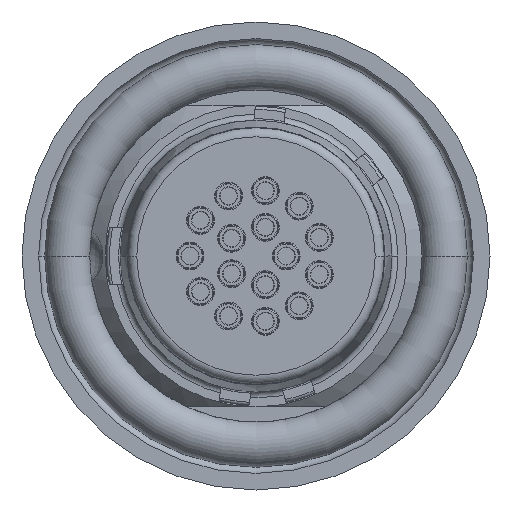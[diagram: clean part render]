
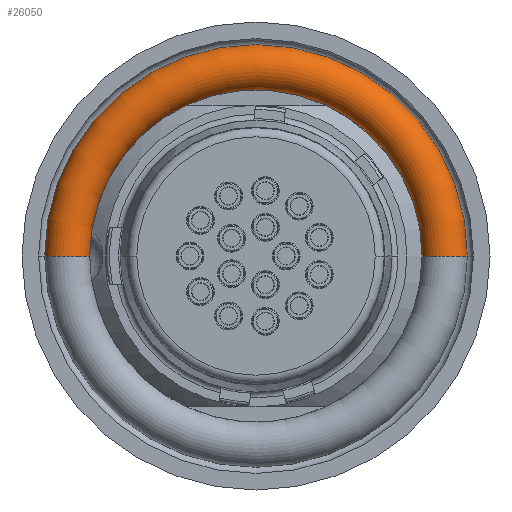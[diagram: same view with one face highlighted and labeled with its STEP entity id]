
A CAD part, left-side view. The second image highlights one B-rep face of the part: STEP entity #26050.
In plain terms, the highlighted toroidal (fillet/blend) face has major radius 6.25 mm and minor radius 0.75 mm.
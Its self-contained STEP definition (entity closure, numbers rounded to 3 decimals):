
#25987=CARTESIAN_POINT('',(7.,6.25,0.));
#25988=DIRECTION('',(0.,0.,-1.));
#25989=DIRECTION('',(0.,-1.,0.));
#25990=AXIS2_PLACEMENT_3D('',#25987,#25988,#25989);
#25992=CARTESIAN_POINT('',(7.,0.,0.));
#25993=DIRECTION('',(-1.,0.,0.));
#25994=DIRECTION('',(0.,-1.,0.));
#25995=AXIS2_PLACEMENT_3D('',#25992,#25993,#25994);
#25997=CARTESIAN_POINT('',(7.,-6.25,0.));
#25998=DIRECTION('',(0.,0.,1.));
#25999=DIRECTION('',(0.,1.,0.));
#26000=AXIS2_PLACEMENT_3D('',#25997,#25998,#25999);
#26022=CARTESIAN_POINT('',(7.,0.,0.));
#26023=DIRECTION('',(-1.,0.,0.));
#26024=DIRECTION('',(0.,-1.,0.));
#26025=AXIS2_PLACEMENT_3D('',#26022,#26023,#26024);
#26027=CARTESIAN_POINT('',(7.,5.5,0.));
#26028=CARTESIAN_POINT('',(7.,7.,0.));
#26029=VERTEX_POINT('',#26027);
#26030=VERTEX_POINT('',#26028);
#26031=CARTESIAN_POINT('',(7.,-7.,0.));
#26032=VERTEX_POINT('',#26031);
#26033=CARTESIAN_POINT('',(7.,-5.5,0.));
#26034=VERTEX_POINT('',#26033);
#26035=CARTESIAN_POINT('',(7.,0.,0.));
#26036=DIRECTION('',(1.,0.,0.));
#26037=DIRECTION('',(0.,-1.,0.));
#26038=AXIS2_PLACEMENT_3D('',#26035,#26036,#26037);
#26039=TOROIDAL_SURFACE('',#26038,6.25,0.75);
#26041=ORIENTED_EDGE('',*,*,#26040,.T.);
#26043=ORIENTED_EDGE('',*,*,#26042,.F.);
#26045=ORIENTED_EDGE('',*,*,#26044,.F.);
#26047=ORIENTED_EDGE('',*,*,#26046,.T.);
#26048=EDGE_LOOP('',(#26041,#26043,#26045,#26047));
#26049=FACE_OUTER_BOUND('',#26048,.F.);
#25991=CIRCLE('',#25990,0.75);
#25996=CIRCLE('',#25995,5.5);
#26001=CIRCLE('',#26000,0.75);
#26026=CIRCLE('',#26025,7.);
#26040=EDGE_CURVE('',#26029,#26030,#25991,.T.);
#26042=EDGE_CURVE('',#26032,#26030,#26026,.T.);
#26044=EDGE_CURVE('',#26034,#26032,#26001,.T.);
#26046=EDGE_CURVE('',#26034,#26029,#25996,.T.);
#26050=ADVANCED_FACE('',(#26049),#26039,.T.);
